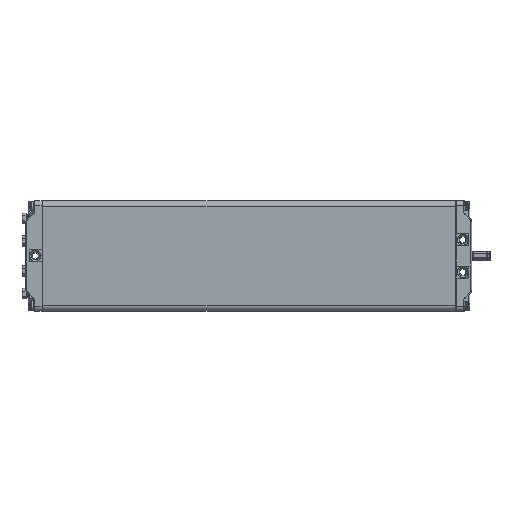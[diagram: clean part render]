
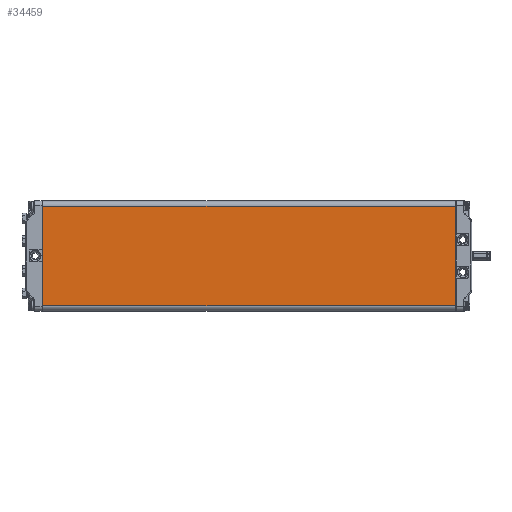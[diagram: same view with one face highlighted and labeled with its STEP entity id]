
A CAD part, top view. The second image highlights one B-rep face of the part: STEP entity #34459.
In plain terms, the highlighted planar face has unit normal (0, 0, 1).
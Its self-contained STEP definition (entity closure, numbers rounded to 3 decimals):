
#12028=ORIENTED_EDGE('',*,*,#16654,.T.);
#12029=ORIENTED_EDGE('',*,*,#16655,.T.);
#12030=ORIENTED_EDGE('',*,*,#16656,.T.);
#12031=ORIENTED_EDGE('',*,*,#16657,.T.);
#16654=EDGE_CURVE('',#19350,#19351,#20681,.F.);
#16655=EDGE_CURVE('',#19351,#19352,#20682,.T.);
#16656=EDGE_CURVE('',#19352,#19353,#20683,.T.);
#16657=EDGE_CURVE('',#19353,#19350,#20684,.F.);
#19350=VERTEX_POINT('',#104404);
#19351=VERTEX_POINT('',#104405);
#19352=VERTEX_POINT('',#104407);
#19353=VERTEX_POINT('',#104409);
#20681=LINE('',#104403,#21989);
#20682=LINE('',#104406,#21990);
#20683=LINE('',#104408,#21991);
#20684=LINE('',#104410,#21992);
#21989=VECTOR('',#43281,1000.);
#21990=VECTOR('',#43282,1000.);
#21991=VECTOR('',#43283,1000.);
#21992=VECTOR('',#43284,1000.);
#23898=EDGE_LOOP('',(#12028,#12029,#12030,#12031));
#25895=FACE_BOUND('',#23898,.T.);
#26462=PLANE('',#37075);
#34459=ADVANCED_FACE('',(#25895),#26462,.T.);
#37075=AXIS2_PLACEMENT_3D('',#104402,#43279,#43280);
#43279=DIRECTION('',(0.,0.,1.));
#43280=DIRECTION('',(1.,0.,0.));
#43281=DIRECTION('',(0.,-1.,0.));
#43282=DIRECTION('',(-1.,0.,0.));
#43283=DIRECTION('',(0.,-1.,0.));
#43284=DIRECTION('',(-1.,0.,0.));
#104402=CARTESIAN_POINT('',(60.,450.5,30.));
#104403=CARTESIAN_POINT('',(54.,450.5,30.));
#104404=CARTESIAN_POINT('',(54.,0.5,30.));
#104405=CARTESIAN_POINT('',(54.,450.,30.));
#104406=CARTESIAN_POINT('',(60.,450.,30.));
#104407=CARTESIAN_POINT('',(-54.,450.,30.));
#104408=CARTESIAN_POINT('',(-54.,450.5,30.));
#104409=CARTESIAN_POINT('',(-54.,0.5,30.));
#104410=CARTESIAN_POINT('',(54.,0.5,30.));
